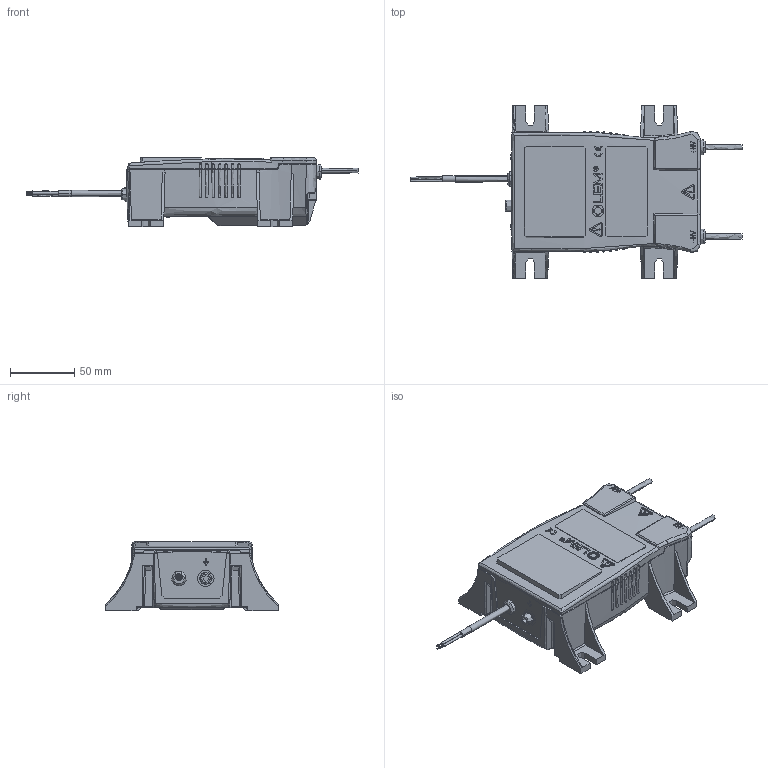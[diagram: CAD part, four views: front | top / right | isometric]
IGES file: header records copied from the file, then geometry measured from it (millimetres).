
Start section: Elysium IGES Interface
Global section: file name: C:\Users\PMO\Desktop\DV 4200_SP3\DV 4200_SP3.igs; native system: Creo Elements/Direct Modeling 20.1  10-Mar-2018; preprocessor: Creo Element/Direct IGES_3D V2.2; author: Unknown; organization: Unknown; date: 20191025.125130; units: millimetre
Bounding box: 257.56 x 134 x 54.22 mm (x, y, z)
Volume: 358016 mm3; surface area: 116550.5 mm2
Topology: 12 solids, 18 shells, 2878 faces, 8061 edges, 5305 vertices
Faces by surface type: bspline 2878
